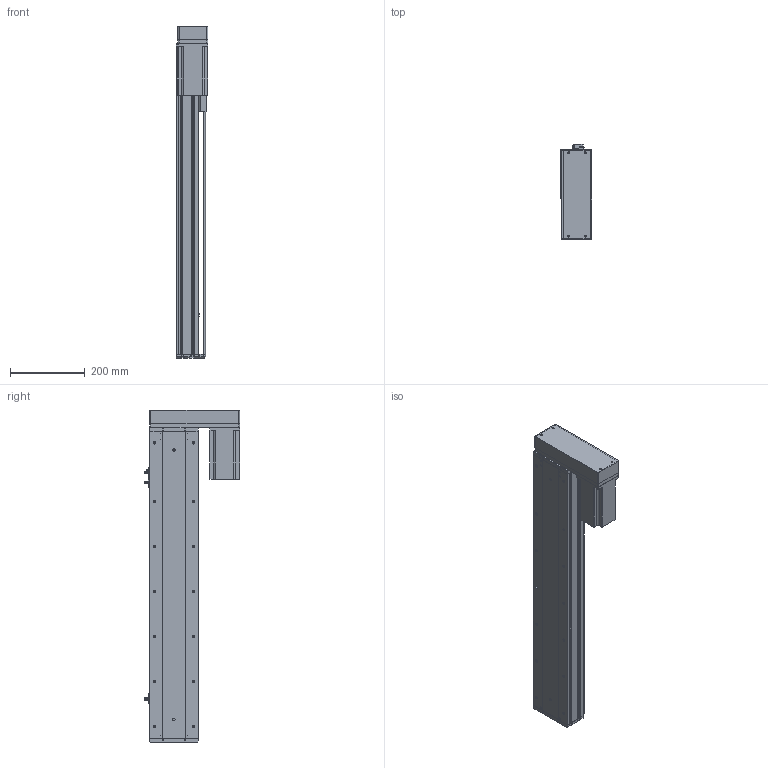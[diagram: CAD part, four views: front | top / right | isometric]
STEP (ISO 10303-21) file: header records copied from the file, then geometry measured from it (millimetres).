
FILE_DESCRIPTION (( 'STEP AP214' ), '1' );
FILE_NAME ('KSD130-P2010-S600-MR-CM.STEP', '2019-09-17T07:46:38', ( '微软用户' ), ( '微软中国' ), 'SwSTEP 2.0', 'SolidWorks 2014', '' );
FILE_SCHEMA (( 'AUTOMOTIVE_DESIGN' ));
Length unit declared in the file: millimetre
Products named in the file (11): 130宽模组保护罩左右折; 台达ECMA－C20807AS伺服电机; 130宽模组马达安装板连板左右折丝杆; U倰嫖萇EEㄜSX672; 覜茼え100遵圉猾敕; 130宽盖板半封闭丝杠-600行程; 130宽滚珠丝杆安装板半封闭-20丝杠; 130宽马达安装板半封闭; 130遵傷裔圉猾敕; 130宽底板半封闭丝杠-600行程; KSD130-P2010-S600-MR-CM
Assembly tree (12 placements, depth 2):
  KSD130-P2010-S600-MR-CM
    130宽底板半封闭丝杠-600行程
    130遵傷裔圉猾敕
    130宽马达安装板半封闭
    130宽滚珠丝杆安装板半封闭-20丝杠
    130宽盖板半封闭丝杠-600行程
    覜茼え100遵圉猾敕
    U倰嫖萇EEㄜSX672  x3
    130宽模组马达安装板连板左右折丝杆
    台达ECMA－C20807AS伺服电机
    130宽模组保护罩左右折
Bounding box: 85 x 253.7 x 885.5 mm (x, y, z)
Volume: 3707240.5 mm3; surface area: 997139.7 mm2
Topology: 13 solids, 13 shells, 1308 faces, 3677 edges, 2347 vertices
Faces by surface type: cylinder 615, plane 554, cone 139
Entity records: 42288 total; most frequent: CARTESIAN_POINT 7838, DIRECTION 6259, ORIENTED_EDGE 6042, EDGE_CURVE 3021, AXIS2_PLACEMENT_3D 2260, VERTEX_POINT 1971, VECTOR 1739, LINE 1739
